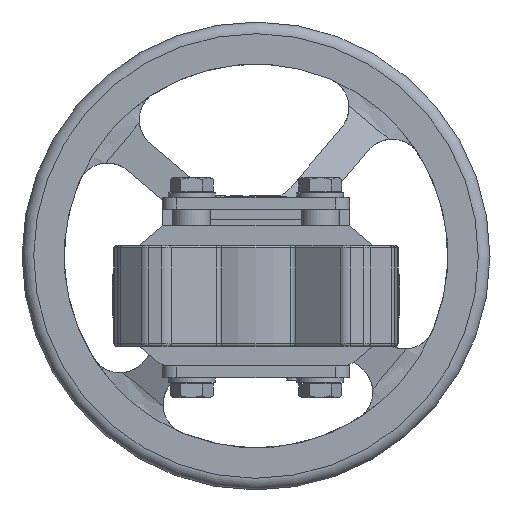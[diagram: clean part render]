
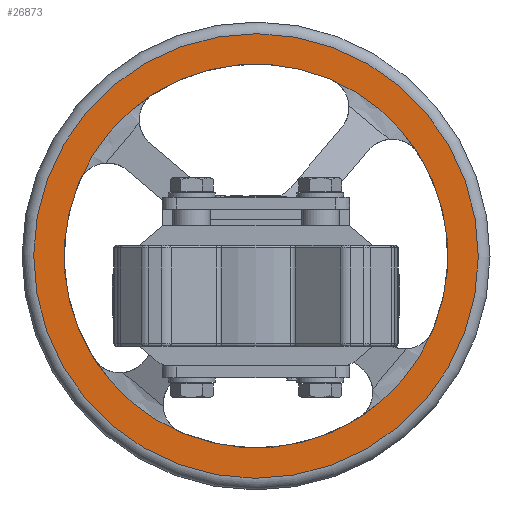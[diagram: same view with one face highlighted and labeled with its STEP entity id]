
A CAD part, front view. The second image highlights one B-rep face of the part: STEP entity #26873.
In plain terms, the highlighted planar face has unit normal (0, -1, 0).
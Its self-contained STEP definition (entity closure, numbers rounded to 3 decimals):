
#23216=CARTESIAN_POINT('',(-31.569,274.,-58.68));
#23217=VERTEX_POINT('',#23216);
#23879=CARTESIAN_POINT('',(75.68,274.0,-14.569));
#23880=VERTEX_POINT('',#23879);
#24539=CARTESIAN_POINT('',(31.569,274.,92.68));
#24540=VERTEX_POINT('',#24539);
#25044=CARTESIAN_POINT('',(-69.37,274.,-26.724));
#25045=VERTEX_POINT('',#25044);
#25065=CARTESIAN_POINT('',(0.,274.,17.0));
#25066=DIRECTION('',(0.,1.0,0.));
#25067=DIRECTION('',(0.646,0.,0.764));
#25068=AXIS2_PLACEMENT_3D('',#25065,#25066,#25067);
#25069=CIRCLE('',#25068,82.0);
#25070=EDGE_CURVE('',#23217,#25045,#25069,.T.);
#25234=CARTESIAN_POINT('',(43.724,274.0,-52.37));
#25235=VERTEX_POINT('',#25234);
#25255=CARTESIAN_POINT('',(0.,274.,17.0));
#25256=DIRECTION('',(0.,1.0,0.));
#25257=DIRECTION('',(0.646,0.,0.764));
#25258=AXIS2_PLACEMENT_3D('',#25255,#25256,#25257);
#25259=CIRCLE('',#25258,82.0);
#25260=EDGE_CURVE('',#23880,#25235,#25259,.T.);
#25424=CARTESIAN_POINT('',(69.37,274.0,60.724));
#25425=VERTEX_POINT('',#25424);
#25445=CARTESIAN_POINT('',(0.,274.,17.0));
#25446=DIRECTION('',(0.,1.0,0.));
#25447=DIRECTION('',(0.646,0.,0.764));
#25448=AXIS2_PLACEMENT_3D('',#25445,#25446,#25447);
#25449=CIRCLE('',#25448,82.0);
#25450=EDGE_CURVE('',#24540,#25425,#25449,.T.);
#25472=CARTESIAN_POINT('',(0.,274.,17.0));
#25473=DIRECTION('',(0.,1.0,0.));
#25474=DIRECTION('',(0.646,0.,0.764));
#25475=AXIS2_PLACEMENT_3D('',#25472,#25473,#25474);
#25476=CIRCLE('',#25475,82.0);
#25477=EDGE_CURVE('',#25235,#23217,#25476,.T.);
#25482=CARTESIAN_POINT('',(0.,274.,17.0));
#25483=DIRECTION('',(0.,1.0,0.));
#25484=DIRECTION('',(0.646,0.,0.764));
#25485=AXIS2_PLACEMENT_3D('',#25482,#25483,#25484);
#25486=CIRCLE('',#25485,82.0);
#25487=EDGE_CURVE('',#25425,#23880,#25486,.T.);
#25497=CARTESIAN_POINT('',(-43.724,274.,86.37));
#25498=VERTEX_POINT('',#25497);
#25499=CARTESIAN_POINT('',(0.,274.,17.0));
#25500=DIRECTION('',(0.,1.0,0.));
#25501=DIRECTION('',(0.646,0.,0.764));
#25502=AXIS2_PLACEMENT_3D('',#25499,#25500,#25501);
#25503=CIRCLE('',#25502,82.0);
#25504=EDGE_CURVE('',#25498,#24540,#25503,.T.);
#25523=CARTESIAN_POINT('',(-75.68,274.,48.569));
#25524=VERTEX_POINT('',#25523);
#25531=CARTESIAN_POINT('',(0.,274.,17.0));
#25532=DIRECTION('',(0.,1.0,0.));
#25533=DIRECTION('',(0.646,0.,0.764));
#25534=AXIS2_PLACEMENT_3D('',#25531,#25532,#25533);
#25535=CIRCLE('',#25534,82.0);
#25536=EDGE_CURVE('',#25045,#25524,#25535,.T.);
#26817=CARTESIAN_POINT('',(-61.331,274.,-55.55));
#26818=VERTEX_POINT('',#26817);
#26819=CARTESIAN_POINT('',(0.,274.,17.0));
#26820=DIRECTION('',(0.,1.0,0.));
#26821=DIRECTION('',(0.646,0.,0.764));
#26822=AXIS2_PLACEMENT_3D('',#26819,#26820,#26821);
#26823=CIRCLE('',#26822,95.0);
#26824=EDGE_CURVE('',#26818,#26818,#26823,.T.);
#26849=CARTESIAN_POINT('',(0.,274.,17.));
#26850=DIRECTION('',(0.0,1.0,0.0));
#26851=DIRECTION('',(-0.646,0.0,-0.764));
#26852=AXIS2_PLACEMENT_3D('',#26849,#26850,#26851);
#26853=PLANE('',#26852);
#26854=ORIENTED_EDGE('',*,*,#26824,.F.);
#26855=EDGE_LOOP('',(#26854));
#26856=FACE_OUTER_BOUND('',#26855,.T.);
#26857=ORIENTED_EDGE('',*,*,#25504,.T.);
#26858=ORIENTED_EDGE('',*,*,#25450,.T.);
#26859=ORIENTED_EDGE('',*,*,#25487,.T.);
#26860=ORIENTED_EDGE('',*,*,#25260,.T.);
#26861=ORIENTED_EDGE('',*,*,#25477,.T.);
#26862=ORIENTED_EDGE('',*,*,#25070,.T.);
#26863=ORIENTED_EDGE('',*,*,#25536,.T.);
#26864=CARTESIAN_POINT('',(0.,274.,17.0));
#26865=DIRECTION('',(0.,1.0,0.));
#26866=DIRECTION('',(0.646,0.,0.764));
#26867=AXIS2_PLACEMENT_3D('',#26864,#26865,#26866);
#26868=CIRCLE('',#26867,82.0);
#26869=EDGE_CURVE('',#25524,#25498,#26868,.T.);
#26870=ORIENTED_EDGE('',*,*,#26869,.T.);
#26871=EDGE_LOOP('',(#26857,#26858,#26859,#26860,#26861,#26862,#26863,#26870));
#26872=FACE_BOUND('',#26871,.T.);
#26873=ADVANCED_FACE('',(#26856,#26872),#26853,.F.);
